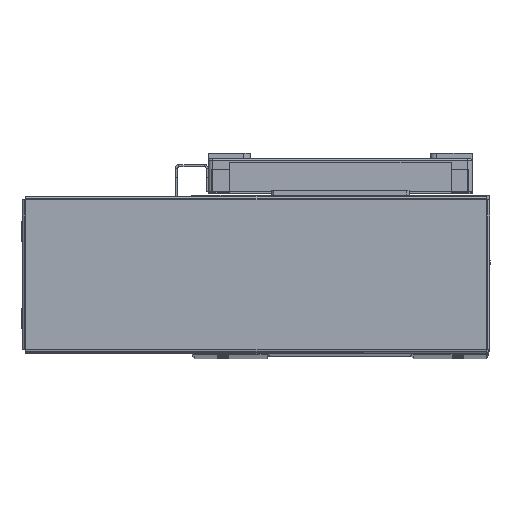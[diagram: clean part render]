
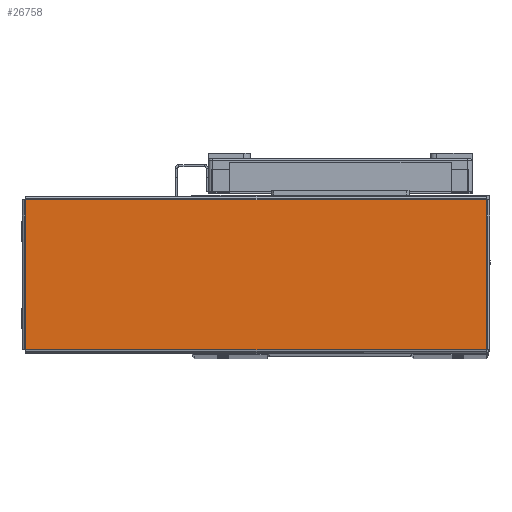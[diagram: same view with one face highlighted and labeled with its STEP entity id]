
A CAD part, top view. The second image highlights one B-rep face of the part: STEP entity #26758.
In plain terms, the highlighted planar face has unit normal (0, 0, 1) as drawn and (0, -1, 0) by its records, which use the part's own axes.
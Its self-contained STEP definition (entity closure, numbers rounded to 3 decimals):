
#18046 = VERTEX_POINT ( 'NONE', #31652 ) ;
#18177 = VERTEX_POINT ( 'NONE', #31795 ) ;
#18188 = VERTEX_POINT ( 'NONE', #31826 ) ;
#18337 = VERTEX_POINT ( 'NONE', #31991 ) ;
#26758 = ADVANCED_FACE ( 'NONE', ( #50034 ), #54166, .F. ) ;
#27686 = EDGE_LOOP ( 'NONE', ( #40089, #40093, #40101, #40106 ) ) ;
#31652 = CARTESIAN_POINT ( 'NONE',  ( -103.763, -1., 33.763 ) ) ;
#31795 = CARTESIAN_POINT ( 'NONE',  ( 103.763, -1., 33.763 ) ) ;
#31826 = CARTESIAN_POINT ( 'NONE',  ( -103.763, -1., -33.763 ) ) ;
#31991 = CARTESIAN_POINT ( 'NONE',  ( 103.763, -1., -33.763 ) ) ;
#33144 = EDGE_CURVE ( 'NONE', #18177, #18046, #55876, .T. ) ;
#33202 = EDGE_CURVE ( 'NONE', #18337, #18177, #55968, .T. ) ;
#33207 = EDGE_CURVE ( 'NONE', #18046, #18188, #55929, .T. ) ;
#33217 = EDGE_CURVE ( 'NONE', #18188, #18337, #55958, .T. ) ;
#40089 = ORIENTED_EDGE ( 'NONE', *, *, #33144, .T. ) ;
#40093 = ORIENTED_EDGE ( 'NONE', *, *, #33207, .T. ) ;
#40101 = ORIENTED_EDGE ( 'NONE', *, *, #33217, .T. ) ;
#40106 = ORIENTED_EDGE ( 'NONE', *, *, #33202, .T. ) ;
#43371 = AXIS2_PLACEMENT_3D ( 'NONE', #54170, #54205, #54206 ) ;
#50034 = FACE_OUTER_BOUND ( 'NONE', #27686, .T. ) ;
#54166 = PLANE ( 'NONE',  #43371 ) ;
#54170 = CARTESIAN_POINT ( 'NONE',  ( 0., -1., 0. ) ) ;
#54205 = DIRECTION ( 'NONE',  ( 0., 1., 0. ) ) ;
#54206 = DIRECTION ( 'NONE',  ( 0., 0., 1. ) ) ;
#55876 = LINE ( 'NONE', #60013, #55877 ) ;
#55877 = VECTOR ( 'NONE', #60014, 1000. ) ;
#55929 = LINE ( 'NONE', #60148, #55930 ) ;
#55930 = VECTOR ( 'NONE', #60141, 1000. ) ;
#55958 = LINE ( 'NONE', #60219, #55981 ) ;
#55968 = LINE ( 'NONE', #60201, #55973 ) ;
#55973 = VECTOR ( 'NONE', #60217, 1000. ) ;
#55981 = VECTOR ( 'NONE', #60173, 1000. ) ;
#60013 = CARTESIAN_POINT ( 'NONE',  ( 103.793, -1., 33.763 ) ) ;
#60014 = DIRECTION ( 'NONE',  ( -1., 0., 0. ) ) ;
#60141 = DIRECTION ( 'NONE',  ( 0., 0., -1. ) ) ;
#60148 = CARTESIAN_POINT ( 'NONE',  ( -103.763, -1., 33.793 ) ) ;
#60173 = DIRECTION ( 'NONE',  ( 1., 0., 0. ) ) ;
#60201 = CARTESIAN_POINT ( 'NONE',  ( 103.763, -1., -33.793 ) ) ;
#60217 = DIRECTION ( 'NONE',  ( 0., 0., 1. ) ) ;
#60219 = CARTESIAN_POINT ( 'NONE',  ( -103.793, -1., -33.763 ) ) ;
